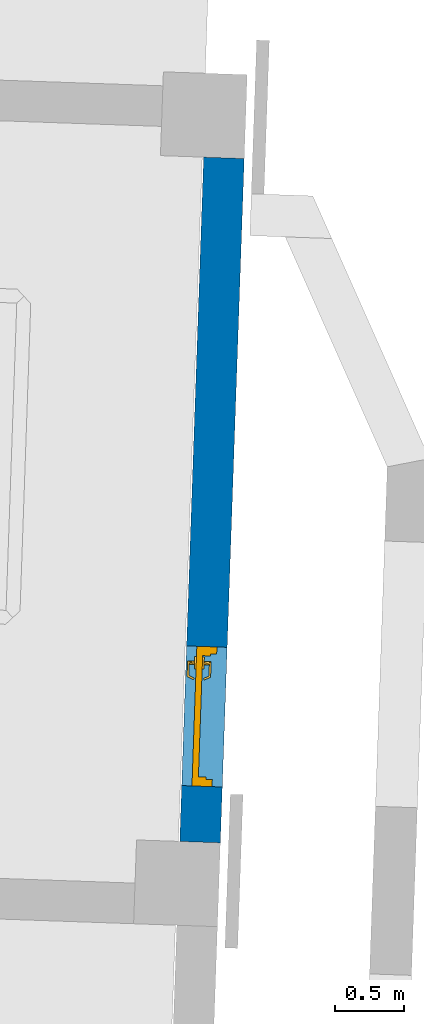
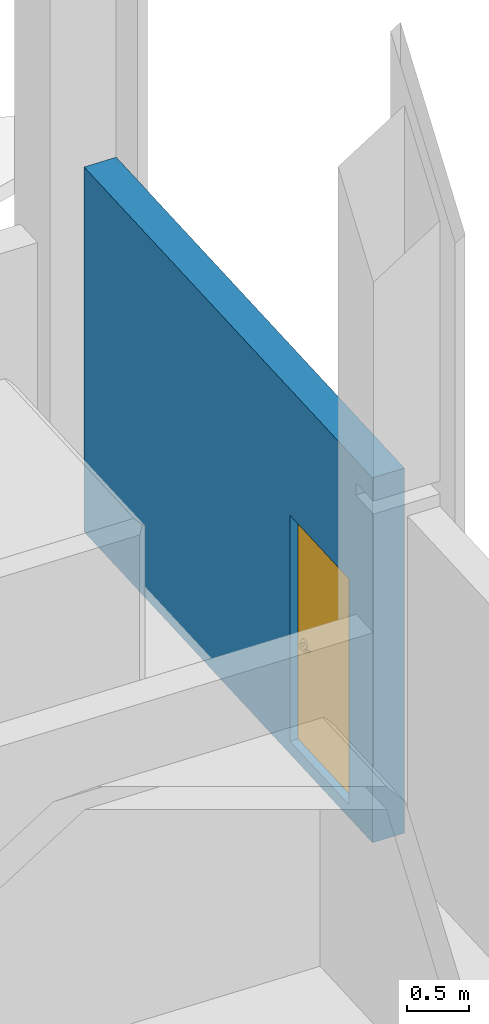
# One storey, part 36 of 44: 1 door, 1 wall, 1 opening.
"""IFC2X3 building model written with IfcOpenShell, lengths in feet."""

import ifcopenshell
import ifcopenshell.guid

model = None  # the IFC model being written
_history = None  # IfcOwnerHistory: only IFC2X3 demands one
_inside = {}  # id of a spatial element -> (the spatial element, [elements in it])
_under = {}  # id of a project, library or spatial element -> (it, [spatial elements below it])
_declared = {}  # id of a project -> (the project, [libraries it declares])
_typed = {}  # id of a type object -> (the type object, [elements of that type])
_made_of = {}  # id of a material, layer set ... -> (it, [elements and type objects made of it])


def new_model(schema):
    """Start an empty IFC model of exactly this schema.

    Asked for "IFC4X3", IfcOpenShell would pick the latest addendum, in which some entities
    have other attributes; the version numbers below select the first issue.
    IFC2X3 requires an IfcOwnerHistory on every rooted entity: one is made here for all.
    """
    global model, _history
    if schema == "IFC4X3":
        model = ifcopenshell.file(schema_version=(4, 3, 0, 0))
    else:
        model = ifcopenshell.file(schema=schema)
    _inside.clear()
    _under.clear()
    _declared.clear()
    _typed.clear()
    _made_of.clear()
    _history = None
    if model.schema == "IFC2X3":
        org = make("IfcOrganization", Name="unknown")
        user = make(
            "IfcPersonAndOrganization",
            ThePerson=make("IfcPerson", FamilyName="unknown"),
            TheOrganization=org,
        )
        app = make(
            "IfcApplication",
            ApplicationDeveloper=org,
            Version="unknown",
            ApplicationFullName="unknown",
            ApplicationIdentifier="unknown",
        )
        _history = make(
            "IfcOwnerHistory",
            OwningUser=user,
            OwningApplication=app,
            ChangeAction="ADDED",
            CreationDate=0,
        )
    return model


def make(cls, **values):
    """One entity of the class cls with the attributes given. An attribute that is None is left unset."""
    return model.create_entity(
        cls, **{name: value for name, value in values.items() if value is not None}
    )


def entity(cls, *values):
    """Any entity or typed value of the class cls, its attributes in the order of the schema. None: left unset."""
    e = model.create_entity(cls)
    for i, value in enumerate(values):
        if value is not None:
            e[i] = value
    return e


def rooted(cls, **values):
    """An entity with a GlobalId (a new one), such as an element, a storey or a relation."""
    return make(cls, GlobalId=ifcopenshell.guid.new(), OwnerHistory=_history, **values)


def si_unit(unit_type, name, prefix=None):
    """IfcSIUnit, for example si_unit("LENGTHUNIT", "METRE", prefix="MILLI")."""
    return make("IfcSIUnit", UnitType=unit_type, Prefix=prefix, Name=name)


def converted_unit(unit_type, name, factor, base, dimensions=None, offset=None):
    """IfcConversionBasedUnit, such as the inch: factor (a typed value) times the base unit."""
    return make(
        "IfcConversionBasedUnit"
        if offset is None
        else "IfcConversionBasedUnitWithOffset",
        ConversionOffset=offset,
        Dimensions=None
        if dimensions is None
        else entity("IfcDimensionalExponents", *dimensions),
        UnitType=unit_type,
        Name=name,
        ConversionFactor=make(
            "IfcMeasureWithUnit", ValueComponent=factor, UnitComponent=base
        ),
    )


def derived_unit(unit_type, elements):
    """IfcDerivedUnit: a product of units, each with its exponent."""
    return make(
        "IfcDerivedUnit",
        Elements=[
            make("IfcDerivedUnitElement", Unit=unit, Exponent=power)
            for unit, power in elements
        ],
        UnitType=unit_type,
    )


def assignment(units):
    """IfcUnitAssignment: the units of a project."""
    return None if units is None else make("IfcUnitAssignment", Units=units)


def point(xyz):
    """IfcCartesianPoint."""
    return None if xyz is None else make("IfcCartesianPoint", Coordinates=xyz)


def direction(xyz):
    """IfcDirection."""
    return None if xyz is None else make("IfcDirection", DirectionRatios=xyz)


def frame(location, z_axis=None, x_axis=None):
    """IfcAxis2Placement3D, a coordinate frame: its origin and axes. An axis left out is left unset."""
    return make(
        "IfcAxis2Placement3D",
        Location=point(location),
        Axis=direction(z_axis),
        RefDirection=direction(x_axis),
    )


def frame_2d(location, x_axis=None):
    """IfcAxis2Placement2D, a coordinate frame in the plane: its origin and x axis."""
    return make(
        "IfcAxis2Placement2D", Location=point(location), RefDirection=direction(x_axis)
    )


def origin():
    """The frame at (0, 0, 0) with its axes left unset."""
    return frame((0.0, 0.0, 0.0))


def place(relative_to, where):
    """IfcLocalPlacement: puts the frame where relative to a parent placement (None: the world)."""
    return make(
        "IfcLocalPlacement", PlacementRelTo=relative_to, RelativePlacement=where
    )


def context(
    kind, dimensions, precision=None, world=None, true_north=None, identifier=None
):
    """IfcGeometricRepresentationContext, for example the 3D "Model" context."""
    return make(
        "IfcGeometricRepresentationContext",
        ContextIdentifier=identifier,
        ContextType=kind,
        CoordinateSpaceDimension=dimensions,
        Precision=precision,
        WorldCoordinateSystem=world,
        TrueNorth=true_north,
    )


def subcontext(parent, identifier, kind, view, scale=None):
    """IfcGeometricRepresentationSubContext, for example "Body" below "Model"."""
    return make(
        "IfcGeometricRepresentationSubContext",
        ContextIdentifier=identifier,
        ContextType=kind,
        ParentContext=parent,
        TargetScale=scale,
        TargetView=view,
    )


def project(units=None, contexts=None):
    """IfcProject with its units and contexts."""
    return rooted(
        "IfcProject",
        Name="project",
        RepresentationContexts=contexts,
        UnitsInContext=assignment(units),
    )


def spatial(cls, under=None, at=None, **own):
    """A site, building, storey or space (cls), placed at a placement, below another one or the project."""
    s = rooted(cls, ObjectPlacement=at, **own)
    if under is not None:
        _under.setdefault(under.id(), (under, []))[1].append(s)
    return s


def profile(cls, at=None, kind="AREA", **sizes):
    """A parametric profile (cls). Its sizes go by their IFC names, for example OverallWidth=200.0."""
    return make(cls, ProfileType=kind, Position=at, **sizes)


def rectangle(**sizes):
    """IfcRectangleProfileDef."""
    return profile("IfcRectangleProfileDef", **sizes)


def extrude(swept, where, along, depth):
    """IfcExtrudedAreaSolid: the profile swept, set in the frame where, extruded along a direction by depth."""
    return make(
        "IfcExtrudedAreaSolid",
        SweptArea=swept,
        Position=where,
        ExtrudedDirection=direction(along),
        Depth=depth,
    )


def faces_of(points, faces, orient=None, outer=None):
    """IfcFace entities. A face is a list of loops; a loop is a list of indices into points, from 0.

    orient and outer hold one flag for each loop. By default every Orientation is true, the
    first loop of a face is its IfcFaceOuterBound and the others are IfcFaceBound.
    """
    made = []
    for i, loops in enumerate(faces):
        bounds = []
        for j, loop in enumerate(loops):
            is_outer = j == 0 if outer is None else outer[i][j]
            bounds.append(
                make(
                    "IfcFaceOuterBound" if is_outer else "IfcFaceBound",
                    Bound=make("IfcPolyLoop", Polygon=[points[k] for k in loop]),
                    Orientation=True if orient is None else orient[i][j],
                )
            )
        made.append(make("IfcFace", Bounds=bounds))
    return made


def faceted_brep(points, faces, orient=None, outer=None, voids=None):
    """IfcFacetedBrep: a solid bounded by flat faces; with voids (closed shells), ...WithVoids."""
    shared = [point(p) for p in points]
    hull = make("IfcClosedShell", CfsFaces=faces_of(shared, faces, orient, outer))
    if voids is None:
        return make("IfcFacetedBrep", Outer=hull)
    return make(
        "IfcFacetedBrepWithVoids",
        Outer=hull,
        Voids=[
            make(cls, CfsFaces=faces_of(shared, fs, o, b)) for cls, fs, o, b in voids
        ],
    )


def shape(context_of_items, identifier, shape_type, items):
    """IfcShapeRepresentation: the items that make up one representation, for example the "Body"."""
    return make(
        "IfcShapeRepresentation",
        ContextOfItems=context_of_items,
        RepresentationIdentifier=identifier,
        RepresentationType=shape_type,
        Items=items,
    )


def source(mapping_origin, context_of_items, identifier, shape_type, items):
    """IfcRepresentationMap: a shape defined once, which mapped items show again and again."""
    return make(
        "IfcRepresentationMap",
        MappingOrigin=mapping_origin,
        MappedRepresentation=shape(context_of_items, identifier, shape_type, items),
    )


def transform(
    local_origin,
    x_axis=None,
    y_axis=None,
    z_axis=None,
    scale=None,
    scale2=None,
    scale3=None,
    uniform=True,
):
    """IfcCartesianTransformationOperator3D, or its non-uniform kind. x_axis, y_axis, z_axis: its Axis1, 2, 3."""
    if uniform:
        return make(
            "IfcCartesianTransformationOperator3D",
            Axis1=direction(x_axis),
            Axis2=direction(y_axis),
            LocalOrigin=point(local_origin),
            Scale=scale,
            Axis3=direction(z_axis),
        )
    return make(
        "IfcCartesianTransformationOperator3DnonUniform",
        Axis1=direction(x_axis),
        Axis2=direction(y_axis),
        LocalOrigin=point(local_origin),
        Scale=scale,
        Axis3=direction(z_axis),
        Scale2=scale2,
        Scale3=scale3,
    )


def mapped(mapping_source, mapping_target):
    """IfcMappedItem: shows the shape of a source again, moved by a transform."""
    return make(
        "IfcMappedItem", MappingSource=mapping_source, MappingTarget=mapping_target
    )


def material(Name=None, Category=None):
    """IfcMaterial."""
    return make("IfcMaterial", Name=Name, Category=Category)


def material_list(materials):
    """IfcMaterialList."""
    return make("IfcMaterialList", Materials=materials)


def layer(
    of_material, thickness, ventilated=None, Name=None, Category=None, Priority=None
):
    """IfcMaterialLayer: one layer of a wall or slab, of a material (None: an air gap)."""
    return make(
        "IfcMaterialLayer",
        Material=of_material,
        LayerThickness=thickness,
        IsVentilated=ventilated,
        Name=Name,
        Category=Category,
        Priority=Priority,
    )


def layer_set(layers, Name=None):
    """IfcMaterialLayerSet."""
    return make("IfcMaterialLayerSet", MaterialLayers=layers, LayerSetName=Name)


def layer_usage(for_layer_set, set_direction, sense, offset, extent=None):
    """IfcMaterialLayerSetUsage: how a layer set lies in its element."""
    return make(
        "IfcMaterialLayerSetUsage",
        ForLayerSet=for_layer_set,
        LayerSetDirection=set_direction,
        DirectionSense=sense,
        OffsetFromReferenceLine=offset,
        ReferenceExtent=extent,
    )


def made_of(thing, what):
    """Note that an element or type object is made of a material, layer set ...; save() writes the relation."""
    if what is not None:
        _made_of.setdefault(what.id(), (what, []))[1].append(thing)
    return thing


def type_object(cls, material=None, **own):
    """A type object (cls), such as IfcWallType, which elements share."""
    return made_of(rooted(cls, **own), material)


def type_shapes(of_type, sources):
    """Give a type object the sources (RepresentationMaps) that its elements show as mapped items."""
    of_type.RepresentationMaps = sources


def element(
    cls,
    number,
    at=None,
    inside=None,
    cuts=None,
    type_object=None,
    material=None,
    context=None,
    identifier="Body",
    shape_type=None,
    held_by="IfcProductDefinitionShape",
    body=None,
    shapes=None,
    **own,
):
    """One element of the class cls, such as IfcWall. Its Tag is "e" and its number.

    at: its placement. inside: the storey or other place that contains it. cuts: it is an
    opening in that element (IfcRelVoidsElement). A single representation is given by context,
    identifier, shape_type and body (its items); several are given by shapes. held_by: the class
    of the entity that holds the representations. save() writes the other relations.
    """
    e = rooted(cls, Tag="e%d" % number, ObjectPlacement=at, **own)
    if body is not None:
        shapes = [shape(context, identifier, shape_type, body)]
    if shapes is not None:
        e.Representation = make(held_by, Representations=shapes)
    if inside is not None:
        _inside.setdefault(inside.id(), (inside, []))[1].append(e)
    if cuts is not None:
        rooted(
            "IfcRelVoidsElement", RelatingBuildingElement=cuts, RelatedOpeningElement=e
        )
    if type_object is not None:
        _typed.setdefault(type_object.id(), (type_object, []))[1].append(e)
    return made_of(e, material)


def fill(opening, filler):
    """IfcRelFillsElement: the door or window that sits in an opening."""
    return rooted(
        "IfcRelFillsElement",
        RelatingOpeningElement=opening,
        RelatedBuildingElement=filler,
    )


def aggregate(whole, parts):
    """IfcRelAggregates: a whole, such as a stair, and the parts it consists of."""
    return rooted("IfcRelAggregates", RelatingObject=whole, RelatedObjects=parts)


def save(model, path):
    """Write the relations noted so far, then the file.

    IfcRelAggregates (storeys below a building ...), IfcRelContainedInSpatialStructure (elements
    in a storey), IfcRelDefinesByType, IfcRelAssociatesMaterial and IfcRelDeclares: one each for
    every whole, place, type object, material and project.
    """
    for whole, parts in _under.values():
        aggregate(whole, parts)
    for where, things in _inside.values():
        rooted(
            "IfcRelContainedInSpatialStructure",
            RelatedElements=things,
            RelatingStructure=where,
        )
    for kind, things in _typed.values():
        rooted("IfcRelDefinesByType", RelatedObjects=things, RelatingType=kind)
    for what, things in _made_of.values():
        rooted("IfcRelAssociatesMaterial", RelatedObjects=things, RelatingMaterial=what)
    for by, libraries in _declared.values():
        rooted("IfcRelDeclares", RelatingContext=by, RelatedDefinitions=libraries)
    model.write(path)


model = new_model("IFC2X3")

# Units and contexts
model_context = context("Model", 3, precision=0.0001, world=origin(), true_north=direction((0.999390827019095, 0.0348994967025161)))
body_context = subcontext(model_context, "Body", "Model", "MODEL_VIEW")
ifc_project = project(units=[converted_unit("LENGTHUNIT", "FOOT", entity("IfcRatioMeasure", 0.3048), si_unit("LENGTHUNIT", "METRE"), dimensions=[1, 0, 0, 0, 0, 0, 0]), converted_unit("AREAUNIT", "SQUARE FOOT", entity("IfcRatioMeasure", 0.09290304), si_unit("AREAUNIT", "SQUARE_METRE"), dimensions=[2, 0, 0, 0, 0, 0, 0]), converted_unit("VOLUMEUNIT", "CUBIC FOOT", entity("IfcRatioMeasure", 0.028316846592), si_unit("VOLUMEUNIT", "CUBIC_METRE"), dimensions=[3, 0, 0, 0, 0, 0, 0]), converted_unit("PLANEANGLEUNIT", "DEGREE", entity("IfcRatioMeasure", 0.0174532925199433), si_unit("PLANEANGLEUNIT", "RADIAN"), dimensions=[0, 0, 0, 0, 0, 0, 0]), si_unit("MASSUNIT", "GRAM", prefix="KILO"), si_unit("TIMEUNIT", "SECOND"), si_unit("FREQUENCYUNIT", "HERTZ"), si_unit("THERMODYNAMICTEMPERATUREUNIT", "DEGREE_CELSIUS"), derived_unit("THERMALTRANSMITTANCEUNIT", [(si_unit("MASSUNIT", "GRAM", prefix="KILO"), 1), (si_unit("THERMODYNAMICTEMPERATUREUNIT", "KELVIN"), -1), (si_unit("TIMEUNIT", "SECOND"), -3)]), derived_unit("VOLUMETRICFLOWRATEUNIT", [(si_unit("LENGTHUNIT", "METRE"), 3), (si_unit("TIMEUNIT", "SECOND"), -1)]), si_unit("ELECTRICCURRENTUNIT", "AMPERE"), si_unit("ELECTRICVOLTAGEUNIT", "VOLT"), si_unit("POWERUNIT", "WATT"), si_unit("FORCEUNIT", "NEWTON"), si_unit("ILLUMINANCEUNIT", "LUX"), si_unit("LUMINOUSFLUXUNIT", "LUMEN"), si_unit("LUMINOUSINTENSITYUNIT", "CANDELA"), derived_unit("USERDEFINED", [(si_unit("MASSUNIT", "GRAM", prefix="KILO"), -1), (si_unit("LENGTHUNIT", "METRE"), -2), (si_unit("TIMEUNIT", "SECOND"), 3), (si_unit("LUMINOUSFLUXUNIT", "LUMEN"), 1)]), derived_unit("LINEARVELOCITYUNIT", [(si_unit("LENGTHUNIT", "METRE"), 1), (si_unit("TIMEUNIT", "SECOND"), -1)]), si_unit("PRESSUREUNIT", "PASCAL"), derived_unit("USERDEFINED", [(si_unit("LENGTHUNIT", "METRE"), -2), (si_unit("MASSUNIT", "GRAM", prefix="KILO"), 1), (si_unit("TIMEUNIT", "SECOND"), -2)])], contexts=[model_context])

# Site, building, storey
site_placement = place(None, frame((892.518771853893, 322.38689265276, 0.00393700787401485), z_axis=(0.0, 0.0, 1.0), x_axis=(0.0348994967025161, 0.999390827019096, 0.0)))
site = spatial("IfcSite", under=ifc_project, at=site_placement, Name="Default", CompositionType="ELEMENT")
building_placement = place(site_placement, origin())
building = spatial("IfcBuilding", under=site, at=building_placement, CompositionType="ELEMENT")
storey_placement = place(building_placement, frame((0.0, 0.0, 544.75)))
storey = spatial("IfcBuildingStorey", under=building, at=storey_placement, Name="Exist Garage - Ground Level", CompositionType="ELEMENT", Elevation=544.75)

# Wall, opening, door
ifc_material_1 = material(Name="Masonry - Concrete Masonry Units")
ifc_layer = layer(ifc_material_1, 0.96875)
ifc_layer_set = layer_set([ifc_layer], Name="Basic Wall:Interior - (C12) 12\" cmu")
ifc_layer_usage = layer_usage(ifc_layer_set, "AXIS2", "NEGATIVE", 0.484375)
wall_type = type_object("IfcWallType", Name="Basic Wall:Interior - (C12) 12\" cmu", PredefinedType="STANDARD", material=ifc_layer_set)
wall_placement = place(storey_placement, frame((57.2605875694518, 236.248328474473, -0.416666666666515), z_axis=(0.0, 0.0, 1.0), x_axis=(-1.0, 0.0, 0.0)))
wall = element("IfcWallStandardCase", 1, at=wall_placement, inside=storey, type_object=wall_type, material=ifc_layer_usage, Name="Basic Wall:Interior - (C12) 12\" cmu", ObjectType="Basic Wall:Interior - (C12) 12\" cmu", context=body_context, shape_type="SweptSolid", body=[
    extrude(rectangle(XDim=16.3333333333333, YDim=0.96875, at=frame_2d((8.16666666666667, 0.0), x_axis=(-1.0, 0.0))), origin(), (0.0, 0.0, 1.0), 11.8498357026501),
])
opening_placement = place(wall_placement, frame((15.0, 0.484375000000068, 0.416666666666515)))
opening = element("IfcOpeningElement", 2, at=opening_placement, cuts=wall, Name="HM_Frame_Door_-_Interior_Single_3897:3'-0\" x 7'-0\" Metal_5.75\" x 4\":1", ObjectType="Opening", context=body_context, shape_type="SweptSolid", body=[
    extrude(rectangle(XDim=3.33333333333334, YDim=7.33333333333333, at=frame_2d((3.66666666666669, 1.66666666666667), x_axis=(0.0, -1.0))), frame((0.0, 0.0, 0.0), z_axis=(0.0, -1.0, 0.0), x_axis=(0.0, 0.0, 1.0)), (0.0, 0.0, 1.0), 0.96875),
])
ifc_material_2 = material(Name="Door - Hardware")
ifc_material_3 = material(Name="Door - H.M. Panel")
ifc_material_4 = material(Name="Door - H.M. Frame")
ifc_material_list_1 = material_list([ifc_material_2, ifc_material_3, ifc_material_4])
ifc_material_list_2 = material_list([ifc_material_2, ifc_material_3, ifc_material_4])
door_style = type_object("IfcDoorStyle", Name="3'-0\" x 7'-0\" Metal_5.75\" x 4\"", ConstructionType="NOTDEFINED", OperationType="NOTDEFINED", ParameterTakesPrecedence=False, Sizeable=False, material=ifc_material_list_2)
shared_shape = source(origin(), body_context, "Body", "Brep", [
    faceted_brep([(2.6243203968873, 0.425163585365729, 3.36458333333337), (2.63071126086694, 0.41145833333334, 3.36458333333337), (2.63071126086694, 0.41145833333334, 3.30208333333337), (2.6243203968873, 0.425163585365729, 3.30208333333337), (2.57149311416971, 0.53845205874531, 3.31250000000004), (2.57149311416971, 0.53845205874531, 3.3541666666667), (2.53373028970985, 0.520842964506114, 3.31250000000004), (2.58655757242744, 0.407554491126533, 3.30208333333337), (2.60416666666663, 0.369791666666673, 3.30208333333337), (2.60416666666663, 0.369791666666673, 3.36458333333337), (2.58655757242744, 0.407554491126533, 3.36458333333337), (2.53373028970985, 0.520842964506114, 3.3541666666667), (2.60416666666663, 0.41145833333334, 3.30208333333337), (2.60416666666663, 0.41145833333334, 3.36458333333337), (2.9361960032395, 0.369791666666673, 3.29168707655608), (2.94639661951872, 0.369791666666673, 3.29262754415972), (2.95605949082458, 0.369791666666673, 3.29602842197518), (2.96460055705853, 0.369791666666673, 3.3016841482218), (2.97150356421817, 0.369791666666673, 3.30925286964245), (2.97635126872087, 0.369791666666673, 3.31827710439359), (2.97885065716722, 0.369791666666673, 3.32821139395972), (2.97885065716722, 0.369791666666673, 3.33845527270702), (2.97635126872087, 0.369791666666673, 3.34838956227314), (2.97150356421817, 0.369791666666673, 3.35741379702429), (2.96460055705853, 0.369791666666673, 3.36498251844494), (2.95605949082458, 0.369791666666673, 3.37063824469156), (2.94639661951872, 0.369791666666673, 3.37403912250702), (2.9361960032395, 0.369791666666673, 3.37497959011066), (2.92566985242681, 0.41145833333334, 3.29338137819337), (2.9361960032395, 0.41145833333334, 3.29168707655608), (2.9361960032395, 0.41145833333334, 3.37497959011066), (2.92566985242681, 0.41145833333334, 3.37328528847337), (2.91591827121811, 0.41145833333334, 3.36897516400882), (2.90757973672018, 0.41145833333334, 3.36233141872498), (2.90120020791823, 0.41145833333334, 3.35378904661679), (2.89719737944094, 0.41145833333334, 3.34390735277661), (2.8958333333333, 0.41145833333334, 3.33333333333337), (2.89719737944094, 0.41145833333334, 3.32275931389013), (2.90120020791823, 0.41145833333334, 3.31287762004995), (2.90757973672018, 0.41145833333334, 3.30433524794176), (2.91591827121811, 0.41145833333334, 3.29769150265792), (2.94568224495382, 0.41145833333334, 3.29247795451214), (2.95473886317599, 0.41145833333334, 3.2954000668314), (2.96289592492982, 0.41145833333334, 3.30030065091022), (2.96972778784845, 0.41145833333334, 3.30692347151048), (2.9748787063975, 0.41145833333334, 3.31492291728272), (2.97808054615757, 0.41145833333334, 3.32388185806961), (2.97916666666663, 0.411458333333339, 3.33333333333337), (2.97808054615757, 0.41145833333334, 3.34278480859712), (2.9748787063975, 0.41145833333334, 3.35174374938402), (2.96972778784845, 0.41145833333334, 3.35974319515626), (2.96289592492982, 0.41145833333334, 3.36636601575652), (2.95473886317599, 0.41145833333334, 3.37126659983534), (2.94568224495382, 0.41145833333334, 3.3741887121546), (2.97774690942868, 0.536458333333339, 3.34411746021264), (2.97916666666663, 0.536458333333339, 3.33333333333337), (2.97358439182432, 0.536458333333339, 3.3541666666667), (2.9669627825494, 0.536458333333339, 3.36279611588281), (2.9583333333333, 0.536458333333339, 3.36941772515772), (2.94828412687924, 0.536458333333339, 3.37358024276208), (2.93749999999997, 0.536458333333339, 3.37500000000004), (2.92671587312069, 0.536458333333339, 3.37358024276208), (2.91666666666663, 0.536458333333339, 3.36941772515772), (2.90803721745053, 0.536458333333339, 3.36279611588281), (2.90141560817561, 0.536458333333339, 3.3541666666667), (2.89725309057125, 0.536458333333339, 3.34411746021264), (2.8958333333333, 0.536458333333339, 3.33333333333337), (2.89725309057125, 0.536458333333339, 3.3225492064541), (2.90141560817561, 0.536458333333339, 3.31250000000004), (2.90803721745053, 0.536458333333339, 3.30387055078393), (2.91666666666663, 0.536458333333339, 3.29724894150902), (2.92671587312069, 0.536458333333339, 3.29308642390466), (2.93749999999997, 0.536458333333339, 3.2916666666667), (2.94828412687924, 0.536458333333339, 3.29308642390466), (2.9583333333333, 0.536458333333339, 3.29724894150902), (2.9669627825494, 0.536458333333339, 3.30387055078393), (2.97358439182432, 0.536458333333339, 3.31250000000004), (2.97774690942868, 0.536458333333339, 3.3225492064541), (2.8645833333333, 0.536458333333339, 3.4596287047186), (2.83438026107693, 0.536458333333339, 3.43645307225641), (2.89975555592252, 0.536458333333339, 3.47419751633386), (2.93749999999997, 0.536458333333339, 3.4791666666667), (2.97524444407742, 0.536458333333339, 3.47419751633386), (3.01041666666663, 0.536458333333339, 3.4596287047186), (3.040619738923, 0.536458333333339, 3.43645307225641), (3.0637953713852, 0.536458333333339, 3.40625000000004), (3.07836418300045, 0.536458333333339, 3.37107777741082), (3.0833333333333, 0.536458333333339, 3.33333333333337), (3.07836418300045, 0.536458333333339, 3.29558888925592), (3.0637953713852, 0.536458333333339, 3.2604166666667), (3.040619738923, 0.536458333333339, 3.23021359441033), (3.01041666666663, 0.536458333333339, 3.20703796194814), (2.97524444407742, 0.536458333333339, 3.19246915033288), (2.93749999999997, 0.536458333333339, 3.18750000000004), (2.89975555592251, 0.536458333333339, 3.19246915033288), (2.8645833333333, 0.536458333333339, 3.20703796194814), (2.83438026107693, 0.536458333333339, 3.23021359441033), (2.81120462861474, 0.536458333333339, 3.2604166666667), (2.79663581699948, 0.536458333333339, 3.29558888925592), (2.79166666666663, 0.536458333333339, 3.33333333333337), (2.79663581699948, 0.536458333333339, 3.37107777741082), (2.81120462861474, 0.536458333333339, 3.40625000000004), (2.83438026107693, 0.578125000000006, 3.23021359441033), (2.81120462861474, 0.578125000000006, 3.2604166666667), (2.79663581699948, 0.578125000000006, 3.29558888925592), (2.79166666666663, 0.578125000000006, 3.33333333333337), (2.79663581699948, 0.578125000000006, 3.37107777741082), (2.81120462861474, 0.578125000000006, 3.40625000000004), (2.83438026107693, 0.578125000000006, 3.43645307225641), (2.8645833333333, 0.578125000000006, 3.4596287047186), (2.89975555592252, 0.578125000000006, 3.47419751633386), (2.93749999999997, 0.578125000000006, 3.4791666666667), (2.97524444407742, 0.578125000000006, 3.47419751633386), (3.01041666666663, 0.578125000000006, 3.4596287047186), (3.040619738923, 0.578125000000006, 3.43645307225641), (3.0637953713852, 0.578125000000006, 3.40625000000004), (3.07836418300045, 0.578125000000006, 3.37107777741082), (3.0833333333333, 0.578125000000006, 3.33333333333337), (3.07836418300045, 0.578125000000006, 3.29558888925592), (3.0637953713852, 0.578125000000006, 3.2604166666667), (3.040619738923, 0.578125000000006, 3.23021359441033), (3.01041666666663, 0.578125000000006, 3.20703796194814), (2.97524444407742, 0.578125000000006, 3.19246915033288), (2.93749999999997, 0.578125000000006, 3.18750000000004), (2.89975555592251, 0.578125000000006, 3.19246915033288), (2.8645833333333, 0.578125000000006, 3.20703796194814)], [[[0, 1, 2, 3, 4, 5]], [[6, 7, 8, 9, 10, 11]], [[3, 2, 12, 8, 7]], [[4, 3, 7, 6]], [[5, 4, 6, 11]], [[0, 5, 11, 10]], [[1, 0, 10, 9, 13]], [[9, 8, 14, 15, 16, 17, 18, 19, 20, 21, 22, 23, 24, 25, 26, 27]], [[28, 29, 12, 2, 1, 13, 30, 31, 32, 33, 34, 35, 36, 37, 38, 39, 40]], [[14, 8, 12, 29]], [[41, 14, 29]], [[42, 15, 41]], [[17, 43, 44]], [[44, 45, 18]], [[42, 43, 16]], [[46, 19, 45]], [[42, 16, 15]], [[15, 14, 41]], [[19, 18, 45]], [[17, 44, 18]], [[17, 16, 43]], [[20, 19, 46]], [[46, 47, 20]], [[48, 21, 47]], [[49, 22, 48]], [[24, 50, 51]], [[51, 52, 25]], [[49, 50, 23]], [[53, 26, 52]], [[24, 23, 50]], [[23, 22, 49]], [[22, 21, 48]], [[27, 26, 53]], [[25, 52, 26]], [[25, 24, 51]], [[27, 53, 30]], [[47, 21, 20]], [[9, 27, 30, 13]], [[54, 48, 55]], [[56, 49, 54]], [[51, 57, 58]], [[56, 57, 50]], [[52, 58, 59]], [[54, 49, 48]], [[48, 47, 55]], [[52, 51, 58]], [[50, 57, 51]], [[50, 49, 56]], [[53, 52, 59]], [[59, 60, 53]], [[61, 30, 60]], [[62, 31, 61]], [[33, 63, 64]], [[64, 65, 34]], [[62, 63, 32]], [[66, 35, 65]], [[62, 32, 31]], [[31, 30, 61]], [[35, 34, 65]], [[33, 64, 34]], [[33, 32, 63]], [[36, 35, 66]], [[60, 30, 53]], [[67, 37, 66]], [[68, 38, 67]], [[40, 69, 70]], [[68, 69, 39]], [[28, 70, 71]], [[67, 38, 37]], [[37, 36, 66]], [[28, 40, 70]], [[39, 69, 40]], [[39, 38, 68]], [[29, 28, 71]], [[71, 72, 29]], [[73, 41, 72]], [[74, 42, 73]], [[44, 75, 76]], [[76, 77, 45]], [[74, 75, 43]], [[55, 46, 77]], [[74, 43, 42]], [[42, 41, 73]], [[46, 45, 77]], [[44, 76, 45]], [[44, 43, 75]], [[47, 46, 55]], [[72, 41, 29]], [[62, 61, 78]], [[79, 62, 78]], [[62, 79, 63]], [[61, 80, 78]], [[80, 61, 60]], [[80, 60, 81]], [[59, 81, 60]], [[81, 59, 82]], [[59, 58, 82]], [[83, 82, 58]], [[57, 83, 58]], [[83, 57, 84]], [[56, 84, 57]], [[85, 84, 56]], [[54, 85, 56]], [[86, 85, 54]], [[86, 54, 55]], [[86, 55, 87]], [[87, 55, 77]], [[87, 77, 88]], [[88, 77, 76]], [[88, 76, 89]], [[90, 89, 76]], [[90, 76, 75]], [[75, 91, 90]], [[75, 74, 91]], [[92, 91, 74]], [[73, 92, 74]], [[73, 93, 92]], [[93, 73, 72]], [[72, 94, 93]], [[71, 94, 72]], [[94, 71, 95]], [[70, 95, 71]], [[96, 95, 70]], [[96, 70, 69]], [[96, 69, 97]], [[97, 69, 68]], [[97, 68, 98]], [[67, 98, 68]], [[99, 98, 67]], [[67, 66, 99]], [[66, 100, 99]], [[100, 66, 65]], [[100, 65, 101]], [[65, 64, 101]], [[63, 101, 64]], [[79, 101, 63]], [[102, 103, 104, 105, 106, 107, 108, 109, 110, 111, 112, 113, 114, 115, 116, 117, 118, 119, 120, 121, 122, 123, 124, 125]], [[116, 86, 87, 117]], [[115, 85, 86, 116]], [[83, 84, 114, 113]], [[115, 114, 84, 85]], [[82, 83, 113, 112]], [[81, 82, 112, 111]], [[110, 80, 81, 111]], [[109, 78, 80, 110]], [[101, 79, 108, 107]], [[109, 108, 79, 78]], [[100, 101, 107, 106]], [[99, 100, 106, 105]], [[104, 98, 99, 105]], [[103, 97, 98, 104]], [[95, 96, 102, 125]], [[103, 102, 96, 97]], [[94, 95, 125, 124]], [[93, 94, 124, 123]], [[122, 92, 93, 123]], [[121, 91, 92, 122]], [[89, 90, 120, 119]], [[121, 120, 90, 91]], [[88, 89, 119, 118]], [[87, 88, 118, 117]]]),
    faceted_brep([(2.62432039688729, 0.876919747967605, 3.30208333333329), (2.63071126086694, 0.890624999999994, 3.30208333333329), (2.63071126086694, 0.890624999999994, 3.36458333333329), (2.62432039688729, 0.876919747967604, 3.36458333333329), (2.57149311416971, 0.763631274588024, 3.35416666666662), (2.57149311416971, 0.763631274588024, 3.31249999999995), (2.53373028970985, 0.781240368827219, 3.35416666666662), (2.58655757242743, 0.8945288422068, 3.36458333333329), (2.60416666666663, 0.932291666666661, 3.36458333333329), (2.60416666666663, 0.932291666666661, 3.30208333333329), (2.58655757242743, 0.8945288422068, 3.30208333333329), (2.53373028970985, 0.781240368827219, 3.31249999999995), (2.60416666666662, 0.890624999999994, 3.36458333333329), (2.60416666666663, 0.890624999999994, 3.30208333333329), (2.9361960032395, 0.932291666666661, 3.37497959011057), (2.94639661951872, 0.932291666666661, 3.37403912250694), (2.95605949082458, 0.932291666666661, 3.37063824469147), (2.96460055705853, 0.932291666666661, 3.36498251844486), (2.97150356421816, 0.932291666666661, 3.35741379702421), (2.97635126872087, 0.932291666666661, 3.34838956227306), (2.97885065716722, 0.932291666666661, 3.33845527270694), (2.97885065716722, 0.932291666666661, 3.32821139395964), (2.97635126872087, 0.932291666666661, 3.31827710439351), (2.97150356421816, 0.932291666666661, 3.30925286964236), (2.96460055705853, 0.932291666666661, 3.30168414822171), (2.95605949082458, 0.932291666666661, 3.2960284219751), (2.94639661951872, 0.932291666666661, 3.29262754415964), (2.9361960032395, 0.932291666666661, 3.291687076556), (2.92566985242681, 0.890624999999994, 3.37328528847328), (2.9361960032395, 0.890624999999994, 3.37497959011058), (2.9361960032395, 0.890624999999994, 3.291687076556), (2.92566985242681, 0.890624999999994, 3.29338137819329), (2.91591827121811, 0.890624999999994, 3.29769150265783), (2.90757973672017, 0.890624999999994, 3.30433524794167), (2.90120020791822, 0.890624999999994, 3.31287762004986), (2.89719737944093, 0.890624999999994, 3.32275931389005), (2.8958333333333, 0.890624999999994, 3.33333333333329), (2.89719737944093, 0.890624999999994, 3.34390735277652), (2.90120020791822, 0.890624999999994, 3.35378904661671), (2.90757973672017, 0.890624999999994, 3.3623314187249), (2.91591827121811, 0.890624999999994, 3.36897516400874), (2.94568224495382, 0.890624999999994, 3.37418871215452), (2.95473886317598, 0.890624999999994, 3.37126659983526), (2.96289592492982, 0.890624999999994, 3.36636601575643), (2.96972778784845, 0.890624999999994, 3.35974319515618), (2.9748787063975, 0.890624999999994, 3.35174374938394), (2.97808054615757, 0.890624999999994, 3.34278480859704), (2.97916666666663, 0.890624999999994, 3.33333333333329), (2.97808054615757, 0.890624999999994, 3.32388185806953), (2.9748787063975, 0.890624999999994, 3.31492291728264), (2.96972778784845, 0.890624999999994, 3.30692347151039), (2.96289592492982, 0.890624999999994, 3.30030065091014), (2.95473886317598, 0.890624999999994, 3.29540006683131), (2.94568224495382, 0.890624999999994, 3.29247795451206), (2.97774690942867, 0.765624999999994, 3.32254920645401), (2.97916666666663, 0.765624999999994, 3.33333333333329), (2.97358439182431, 0.765624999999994, 3.31249999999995), (2.9669627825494, 0.765624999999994, 3.30387055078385), (2.9583333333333, 0.765624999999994, 3.29724894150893), (2.94828412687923, 0.765624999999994, 3.29308642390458), (2.93749999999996, 0.765624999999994, 3.29166666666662), (2.92671587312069, 0.765624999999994, 3.29308642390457), (2.91666666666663, 0.765624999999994, 3.29724894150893), (2.90803721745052, 0.765624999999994, 3.30387055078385), (2.90141560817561, 0.765624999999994, 3.31249999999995), (2.89725309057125, 0.765624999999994, 3.32254920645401), (2.8958333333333, 0.765624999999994, 3.33333333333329), (2.89725309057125, 0.765624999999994, 3.34411746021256), (2.90141560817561, 0.765624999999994, 3.35416666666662), (2.90803721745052, 0.765624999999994, 3.36279611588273), (2.91666666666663, 0.765624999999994, 3.36941772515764), (2.92671587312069, 0.765624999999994, 3.373580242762), (2.93749999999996, 0.765624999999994, 3.37499999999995), (2.94828412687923, 0.765624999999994, 3.373580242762), (2.9583333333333, 0.765624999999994, 3.36941772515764), (2.9669627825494, 0.765624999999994, 3.36279611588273), (2.97358439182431, 0.765624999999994, 3.35416666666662), (2.97774690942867, 0.765624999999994, 3.34411746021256), (2.8645833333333, 0.765624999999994, 3.20703796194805), (2.83438026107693, 0.765624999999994, 3.23021359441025), (2.89975555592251, 0.765624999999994, 3.1924691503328), (2.93749999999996, 0.765624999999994, 3.18749999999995), (2.97524444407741, 0.765624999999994, 3.1924691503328), (3.01041666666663, 0.765624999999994, 3.20703796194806), (3.040619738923, 0.765624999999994, 3.23021359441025), (3.06379537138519, 0.765624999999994, 3.26041666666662), (3.07836418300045, 0.765624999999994, 3.29558888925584), (3.0833333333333, 0.765624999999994, 3.33333333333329), (3.07836418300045, 0.765624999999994, 3.37107777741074), (3.06379537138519, 0.765624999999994, 3.40624999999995), (3.040619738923, 0.765624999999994, 3.43645307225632), (3.01041666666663, 0.765624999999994, 3.45962870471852), (2.97524444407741, 0.765624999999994, 3.47419751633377), (2.93749999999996, 0.765624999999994, 3.47916666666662), (2.89975555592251, 0.765624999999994, 3.47419751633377), (2.8645833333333, 0.765624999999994, 3.45962870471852), (2.83438026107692, 0.765624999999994, 3.43645307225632), (2.81120462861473, 0.765624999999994, 3.40624999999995), (2.79663581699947, 0.765624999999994, 3.37107777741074), (2.79166666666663, 0.765624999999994, 3.33333333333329), (2.79663581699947, 0.765624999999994, 3.29558888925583), (2.81120462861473, 0.765624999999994, 3.26041666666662), (2.83438026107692, 0.723958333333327, 3.43645307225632), (2.81120462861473, 0.723958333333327, 3.40624999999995), (2.79663581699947, 0.723958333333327, 3.37107777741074), (2.79166666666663, 0.723958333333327, 3.33333333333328), (2.79663581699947, 0.723958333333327, 3.29558888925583), (2.81120462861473, 0.723958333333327, 3.26041666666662), (2.83438026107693, 0.723958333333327, 3.23021359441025), (2.8645833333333, 0.723958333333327, 3.20703796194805), (2.89975555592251, 0.723958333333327, 3.1924691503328), (2.93749999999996, 0.723958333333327, 3.18749999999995), (2.97524444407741, 0.723958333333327, 3.1924691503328), (3.01041666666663, 0.723958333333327, 3.20703796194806), (3.040619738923, 0.723958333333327, 3.23021359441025), (3.06379537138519, 0.723958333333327, 3.26041666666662), (3.07836418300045, 0.723958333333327, 3.29558888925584), (3.0833333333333, 0.723958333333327, 3.33333333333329), (3.07836418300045, 0.723958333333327, 3.37107777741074), (3.06379537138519, 0.723958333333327, 3.40624999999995), (3.040619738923, 0.723958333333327, 3.43645307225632), (3.01041666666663, 0.723958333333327, 3.45962870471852), (2.97524444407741, 0.723958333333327, 3.47419751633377), (2.93749999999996, 0.723958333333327, 3.47916666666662), (2.89975555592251, 0.723958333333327, 3.47419751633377), (2.8645833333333, 0.723958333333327, 3.45962870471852)], [[[0, 1, 2, 3, 4, 5]], [[6, 7, 8, 9, 10, 11]], [[3, 2, 12, 8, 7]], [[4, 3, 7, 6]], [[5, 4, 6, 11]], [[0, 5, 11, 10]], [[1, 0, 10, 9, 13]], [[9, 8, 14, 15, 16, 17, 18, 19, 20, 21, 22, 23, 24, 25, 26, 27]], [[28, 29, 12, 2, 1, 13, 30, 31, 32, 33, 34, 35, 36, 37, 38, 39, 40]], [[14, 8, 12, 29]], [[41, 14, 29]], [[42, 15, 41]], [[17, 43, 44]], [[44, 45, 18]], [[42, 43, 16]], [[46, 19, 45]], [[42, 16, 15]], [[15, 14, 41]], [[19, 18, 45]], [[17, 44, 18]], [[17, 16, 43]], [[20, 19, 46]], [[46, 47, 20]], [[48, 21, 47]], [[49, 22, 48]], [[24, 50, 51]], [[51, 52, 25]], [[49, 50, 23]], [[53, 26, 52]], [[24, 23, 50]], [[23, 22, 49]], [[22, 21, 48]], [[27, 26, 53]], [[25, 52, 26]], [[25, 24, 51]], [[27, 53, 30]], [[47, 21, 20]], [[9, 27, 30, 13]], [[54, 48, 55]], [[56, 49, 54]], [[51, 57, 58]], [[56, 57, 50]], [[52, 58, 59]], [[54, 49, 48]], [[48, 47, 55]], [[52, 51, 58]], [[50, 57, 51]], [[50, 49, 56]], [[53, 52, 59]], [[59, 60, 53]], [[61, 30, 60]], [[62, 31, 61]], [[33, 63, 64]], [[64, 65, 34]], [[62, 63, 32]], [[66, 35, 65]], [[62, 32, 31]], [[31, 30, 61]], [[35, 34, 65]], [[33, 64, 34]], [[33, 32, 63]], [[36, 35, 66]], [[60, 30, 53]], [[67, 37, 66]], [[68, 38, 67]], [[40, 69, 70]], [[68, 69, 39]], [[28, 70, 71]], [[67, 38, 37]], [[37, 36, 66]], [[28, 40, 70]], [[39, 69, 40]], [[39, 38, 68]], [[29, 28, 71]], [[71, 72, 29]], [[73, 41, 72]], [[74, 42, 73]], [[44, 75, 76]], [[76, 77, 45]], [[74, 75, 43]], [[55, 46, 77]], [[74, 43, 42]], [[42, 41, 73]], [[46, 45, 77]], [[44, 76, 45]], [[44, 43, 75]], [[47, 46, 55]], [[72, 41, 29]], [[62, 61, 78]], [[79, 62, 78]], [[62, 79, 63]], [[61, 80, 78]], [[80, 61, 60]], [[80, 60, 81]], [[59, 81, 60]], [[81, 59, 82]], [[59, 58, 82]], [[83, 82, 58]], [[57, 83, 58]], [[83, 57, 84]], [[56, 84, 57]], [[85, 84, 56]], [[54, 85, 56]], [[86, 85, 54]], [[86, 54, 55]], [[86, 55, 87]], [[87, 55, 77]], [[87, 77, 88]], [[88, 77, 76]], [[88, 76, 89]], [[90, 89, 76]], [[90, 76, 75]], [[75, 91, 90]], [[75, 74, 91]], [[92, 91, 74]], [[73, 92, 74]], [[73, 93, 92]], [[93, 73, 72]], [[72, 94, 93]], [[71, 94, 72]], [[94, 71, 95]], [[70, 95, 71]], [[96, 95, 70]], [[96, 70, 69]], [[96, 69, 97]], [[97, 69, 68]], [[97, 68, 98]], [[67, 98, 68]], [[99, 98, 67]], [[67, 66, 99]], [[66, 100, 99]], [[100, 66, 65]], [[100, 65, 101]], [[65, 64, 101]], [[63, 101, 64]], [[79, 101, 63]], [[102, 103, 104, 105, 106, 107, 108, 109, 110, 111, 112, 113, 114, 115, 116, 117, 118, 119, 120, 121, 122, 123, 124, 125]], [[116, 86, 87, 117]], [[115, 85, 86, 116]], [[83, 84, 114, 113]], [[115, 114, 84, 85]], [[82, 83, 113, 112]], [[81, 82, 112, 111]], [[110, 80, 81, 111]], [[109, 78, 80, 110]], [[101, 79, 108, 107]], [[109, 108, 79, 78]], [[100, 101, 107, 106]], [[99, 100, 106, 105]], [[104, 98, 99, 105]], [[103, 97, 98, 104]], [[95, 96, 102, 125]], [[103, 102, 96, 97]], [[94, 95, 125, 124]], [[93, 94, 124, 123]], [[122, 92, 93, 123]], [[121, 91, 92, 122]], [[89, 90, 120, 119]], [[121, 120, 90, 91]], [[88, 89, 119, 118]], [[87, 88, 118, 117]]]),
    faceted_brep([(0.166666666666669, 0.723958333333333, 7.0), (3.16666666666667, 0.723958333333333, 7.0), (3.16666666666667, 0.723958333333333, 0.0), (0.166666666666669, 0.723958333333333, 0.0), (0.166666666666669, 0.578125, 7.0), (0.166666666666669, 0.578125, 0.0), (3.16666666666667, 0.578125, 0.0), (3.16666666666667, 0.578125, 7.0)], [[[0, 1, 2, 3]], [[4, 5, 6, 7]], [[1, 0, 4, 7]], [[2, 1, 7, 6]], [[3, 2, 6, 5]], [[0, 3, 5, 4]]]),
    faceted_brep([(0.166666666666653, 0.723958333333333, 0.0), (0.166666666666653, 0.578125, 0.0), (0.218749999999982, 0.578125, 0.0), (0.218749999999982, 0.390625, 0.0), (0.166666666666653, 0.390625, 0.0), (0.166666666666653, 0.244791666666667, 0.0), (0.0, 0.244791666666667, 0.0), (0.0, 0.723958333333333, 0.0), (0.166666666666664, 0.723958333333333, 7.0), (0.166666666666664, 0.578125, 7.0), (3.16666666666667, 0.578125, 7.0), (3.16666666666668, 0.578125, 0.0), (3.11458333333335, 0.578125, 0.0), (3.11458333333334, 0.578125, 6.94791666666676), (0.218749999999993, 0.578125, 6.94791666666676), (0.218749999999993, 0.390625, 6.94791666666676), (3.11458333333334, 0.390625, 6.94791666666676), (3.11458333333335, 0.390625, 0.0), (3.16666666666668, 0.390625, 0.0), (3.16666666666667, 0.390625, 7.0), (0.166666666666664, 0.390625, 7.0), (0.166666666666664, 0.244791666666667, 7.0), (3.16666666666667, 0.244791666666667, 7.0), (3.16666666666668, 0.244791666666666, 0.0), (3.33333333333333, 0.244791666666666, 0.0), (3.33333333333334, 0.244791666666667, 7.33333333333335), (0.0, 0.244791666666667, 7.33333333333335), (0.0, 0.723958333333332, 7.33333333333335), (3.33333333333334, 0.723958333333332, 7.33333333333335), (3.33333333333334, 0.723958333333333, 0.0), (3.16666666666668, 0.723958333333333, 0.0), (3.16666666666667, 0.723958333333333, 7.0)], [[[0, 1, 2, 3, 4, 5, 6, 7]], [[1, 0, 8, 9]], [[2, 1, 9, 10, 11, 12, 13, 14]], [[3, 2, 14, 15]], [[4, 3, 15, 16, 17, 18, 19, 20]], [[5, 4, 20, 21]], [[6, 5, 21, 22, 23, 24, 25, 26]], [[7, 6, 26, 27]], [[0, 7, 27, 28, 29, 30, 31, 8]], [[30, 11, 10, 31]], [[30, 29, 24, 23, 18, 17, 12, 11]], [[12, 17, 16, 13]], [[19, 18, 23, 22]], [[29, 28, 25, 24]], [[25, 28, 27, 26]], [[21, 20, 19, 22]], [[15, 14, 13, 16]], [[10, 9, 8, 31]]]),
])
type_shapes(door_style, [shared_shape])
door_placement = place(opening_placement, frame((0.0, 0.0, 0.0), z_axis=(0.0, 0.0, 1.0), x_axis=(-1.0, 0.0, 0.0)))
door = element("IfcDoor", 3, at=door_placement, inside=storey, type_object=door_style, material=ifc_material_list_1, Name="HM_Frame_Door_-_Interior_Single_3897:3'-0\" x 7'-0\" Metal_5.75\" x 4\"", ObjectType="3'-0\" x 7'-0\" Metal_5.75\" x 4\"", OverallHeight=7.33333333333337, OverallWidth=3.33333333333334, context=body_context, shape_type="MappedRepresentation", body=[
    mapped(shared_shape, transform((0.0, 0.0, 0.0), scale=1.0)),
])
fill(opening, door)

save(model, "model.ifc")
